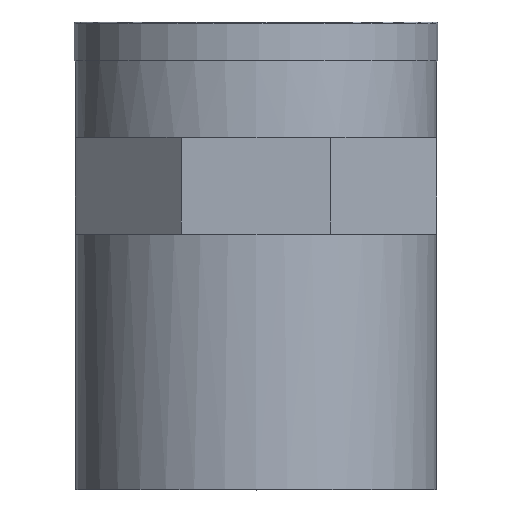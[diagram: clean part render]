
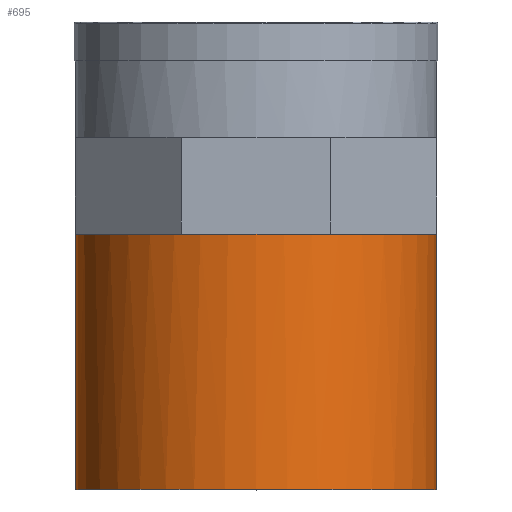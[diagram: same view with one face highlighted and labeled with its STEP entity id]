
A CAD part, top view. The second image highlights one B-rep face of the part: STEP entity #695.
In plain terms, the highlighted cylindrical face has radius 14 mm (diameter 28 mm), a full revolution.
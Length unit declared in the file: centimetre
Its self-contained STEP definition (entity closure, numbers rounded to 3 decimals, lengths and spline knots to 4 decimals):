
#122=CYLINDRICAL_SURFACE('',#767,1.4);
#135=FACE_BOUND('',#234,.T.);
#178=FACE_OUTER_BOUND('',#233,.T.);
#233=EDGE_LOOP('',(#560,#561,#562,#563,#564,#565,#566,#567));
#234=EDGE_LOOP('',(#568));
#247=CIRCLE('',#719,1.4);
#248=CIRCLE('',#721,1.4);
#249=CIRCLE('',#723,1.4);
#250=CIRCLE('',#725,1.4);
#251=CIRCLE('',#727,1.4);
#252=CIRCLE('',#729,1.4);
#253=CIRCLE('',#731,1.4);
#254=CIRCLE('',#733,1.4);
#268=CIRCLE('',#766,1.4);
#287=VERTEX_POINT('',#4036);
#293=VERTEX_POINT('',#4049);
#297=VERTEX_POINT('',#4059);
#300=VERTEX_POINT('',#4068);
#301=VERTEX_POINT('',#4069);
#303=VERTEX_POINT('',#4075);
#305=VERTEX_POINT('',#4081);
#307=VERTEX_POINT('',#4087);
#322=VERTEX_POINT('',#4161);
#362=EDGE_CURVE('',#300,#301,#247,.T.);
#365=EDGE_CURVE('',#303,#300,#248,.T.);
#368=EDGE_CURVE('',#305,#303,#249,.T.);
#371=EDGE_CURVE('',#307,#305,#250,.T.);
#374=EDGE_CURVE('',#287,#307,#251,.T.);
#376=EDGE_CURVE('',#293,#287,#252,.T.);
#377=EDGE_CURVE('',#297,#293,#253,.T.);
#378=EDGE_CURVE('',#301,#297,#254,.T.);
#407=EDGE_CURVE('',#322,#322,#268,.T.);
#560=ORIENTED_EDGE('',*,*,#362,.T.);
#561=ORIENTED_EDGE('',*,*,#378,.T.);
#562=ORIENTED_EDGE('',*,*,#377,.T.);
#563=ORIENTED_EDGE('',*,*,#376,.T.);
#564=ORIENTED_EDGE('',*,*,#374,.T.);
#565=ORIENTED_EDGE('',*,*,#371,.T.);
#566=ORIENTED_EDGE('',*,*,#368,.T.);
#567=ORIENTED_EDGE('',*,*,#365,.T.);
#568=ORIENTED_EDGE('',*,*,#407,.T.);
#695=ADVANCED_FACE('',(#178,#135),#122,.T.);
#719=AXIS2_PLACEMENT_3D('',#4070,#829,#830);
#721=AXIS2_PLACEMENT_3D('',#4076,#835,#836);
#723=AXIS2_PLACEMENT_3D('',#4082,#841,#842);
#725=AXIS2_PLACEMENT_3D('',#4088,#847,#848);
#727=AXIS2_PLACEMENT_3D('',#4093,#853,#854);
#729=AXIS2_PLACEMENT_3D('',#4096,#858,#859);
#731=AXIS2_PLACEMENT_3D('',#4098,#862,#863);
#733=AXIS2_PLACEMENT_3D('',#4100,#866,#867);
#766=AXIS2_PLACEMENT_3D('',#4162,#947,#948);
#767=AXIS2_PLACEMENT_3D('',#4163,#949,#950);
#829=DIRECTION('center_axis',(0.,-1.,0.));
#830=DIRECTION('ref_axis',(-1.,0.,0.));
#835=DIRECTION('center_axis',(0.,-1.,0.));
#836=DIRECTION('ref_axis',(-1.,0.,0.));
#841=DIRECTION('center_axis',(0.,-1.,0.));
#842=DIRECTION('ref_axis',(-1.,0.,0.));
#847=DIRECTION('center_axis',(0.,-1.,0.));
#848=DIRECTION('ref_axis',(-1.,0.,0.));
#853=DIRECTION('center_axis',(0.,-1.,0.));
#854=DIRECTION('ref_axis',(-1.,0.,0.));
#858=DIRECTION('center_axis',(0.,-1.,0.));
#859=DIRECTION('ref_axis',(-1.,0.,0.));
#862=DIRECTION('center_axis',(0.,-1.,0.));
#863=DIRECTION('ref_axis',(-1.,0.,0.));
#866=DIRECTION('center_axis',(0.,-1.,0.));
#867=DIRECTION('ref_axis',(-1.,0.,0.));
#947=DIRECTION('center_axis',(0.,1.,0.));
#948=DIRECTION('ref_axis',(1.,0.,0.));
#949=DIRECTION('center_axis',(0.,1.,0.));
#950=DIRECTION('ref_axis',(-1.,0.,0.));
#4036=CARTESIAN_POINT('',(0.9899,-3.3997,0.9899));
#4049=CARTESIAN_POINT('',(1.4,-3.3997,0.));
#4059=CARTESIAN_POINT('',(0.9899,-3.3997,-0.9899));
#4068=CARTESIAN_POINT('',(-0.9899,-3.3997,-0.9899));
#4069=CARTESIAN_POINT('',(0.,-3.3997,-1.4));
#4070=CARTESIAN_POINT('Origin',(0.,-3.3997,0.));
#4075=CARTESIAN_POINT('',(-1.4,-3.3997,0.));
#4076=CARTESIAN_POINT('Origin',(0.,-3.3997,0.));
#4081=CARTESIAN_POINT('',(-0.9899,-3.3997,0.9899));
#4082=CARTESIAN_POINT('Origin',(0.,-3.3997,0.));
#4087=CARTESIAN_POINT('',(0.,-3.3997,1.4));
#4088=CARTESIAN_POINT('Origin',(0.,-3.3997,0.));
#4093=CARTESIAN_POINT('Origin',(0.,-3.3997,0.));
#4096=CARTESIAN_POINT('Origin',(0.,-3.3997,0.));
#4098=CARTESIAN_POINT('Origin',(0.,-3.3997,0.));
#4100=CARTESIAN_POINT('Origin',(0.,-3.3997,0.));
#4161=CARTESIAN_POINT('',(-1.4,-5.3797,0.));
#4162=CARTESIAN_POINT('Origin',(0.,-5.3797,0.));
#4163=CARTESIAN_POINT('Origin',(0.,-3.5797,0.));
